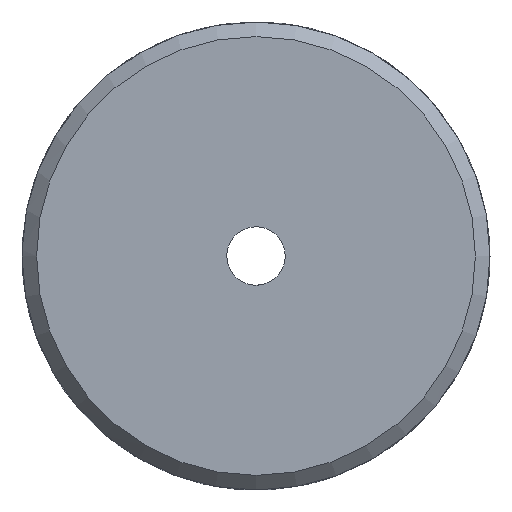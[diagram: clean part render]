
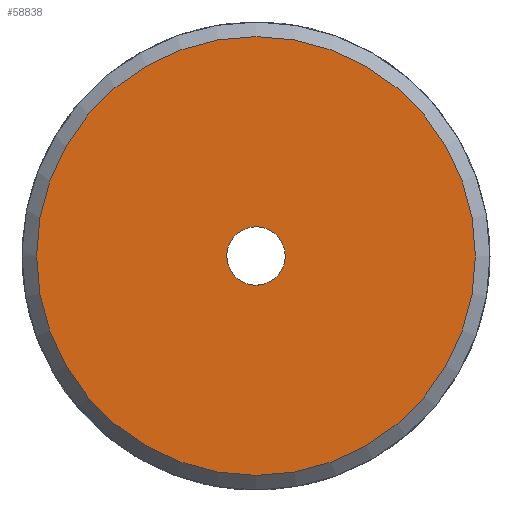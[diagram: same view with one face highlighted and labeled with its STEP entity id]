
A CAD part, left-side view. The second image highlights one B-rep face of the part: STEP entity #58838.
In plain terms, the highlighted planar face has unit normal (-1, 0, 0).
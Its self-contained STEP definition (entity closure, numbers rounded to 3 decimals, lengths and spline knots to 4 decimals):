
#16827=PLANE('',#58095);
#21718=ORIENTED_EDGE('',*,*,#23376,.F.);
#21719=ORIENTED_EDGE('',*,*,#25054,.F.);
#21721=CIRCLE('',#57033,7.5);
#22254=CIRCLE('',#58094,1.);
#22256=VERTEX_POINT('',#28332);
#23374=VERTEX_POINT('',#57026);
#23376=EDGE_CURVE('',#22256,#22256,#21721,.T.);
#25054=EDGE_CURVE('',#23374,#23374,#22254,.T.);
#25623=EDGE_LOOP('',(#21718));
#25624=EDGE_LOOP('',(#21719));
#26193=FACE_BOUND('',#25623,.T.);
#26194=FACE_BOUND('',#25624,.T.);
#26199=DIRECTION('',(1.,0.,0.));
#26200=DIRECTION('',(0.,0.,-7.5));
#28321=DIRECTION('',(-1.,0.,0.));
#28322=DIRECTION('',(0.,-1.,0.));
#28323=DIRECTION('',(-1.,0.,0.));
#28324=DIRECTION('',(0.,1.,0.));
#28332=CARTESIAN_POINT('',(31.1147,161.5307,-7.5));
#28333=CARTESIAN_POINT('',(31.1147,161.5307,0.));
#57026=CARTESIAN_POINT('',(31.1147,160.5307,0.));
#57027=CARTESIAN_POINT('',(31.1147,161.5307,0.));
#57028=CARTESIAN_POINT('',(31.1147,161.5307,-7.5));
#57033=AXIS2_PLACEMENT_3D('',#28333,#26199,#26200);
#58094=AXIS2_PLACEMENT_3D('',#57027,#28321,#28322);
#58095=AXIS2_PLACEMENT_3D('',#57028,#28323,#28324);
#58838=ADVANCED_FACE('',(#26193,#26194),#16827,.T.);
